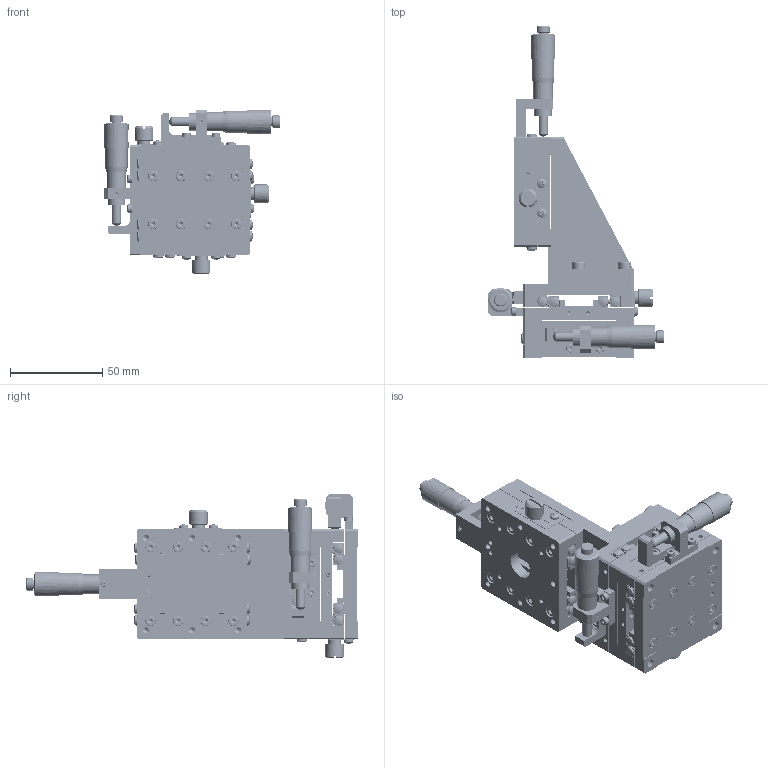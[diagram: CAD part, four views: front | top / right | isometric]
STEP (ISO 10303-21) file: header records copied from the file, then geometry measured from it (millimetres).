
FILE_DESCRIPTION (( 'STEP AP203' ), '1' );
FILE_NAME ('BVD60.STEP', '2024-07-23T12:55:12', ( 'Windows User' ), ( 'P R C' ), 'SwSTEP 2.0', 'SolidWorks 2024', '' );
FILE_SCHEMA (( 'CONFIG_CONTROL_DESIGN' ));
Products named in the file (1): BVD60
Bounding box: 95.2 x 180 x 89.4 mm (x, y, z)
Volume: 262175.6 mm3; surface area: 153919.9 mm2
Topology: 118 solids, 118 shells, 5760 faces, 14248 edges, 9132 vertices
Faces by surface type: plane 2675, bspline 1209, cylinder 1047, cone 754, torus 66, sphere 9
Full cylindrical faces by diameter (mm): 2 x66, 2.05 x36, 2.5 x57, 2.55 x48, 2.9 x2, 2.95 x27, 3 x59, 3.1 x6, 3.2 x5, 3.3 x32, 3.4 x48, 4 x8, 4.4 x48, 4.5 x28, 5 x15, 5.5 x52, 5.8 x4, 6 x48, 7 x14, 7.7 x4, 8 x12, 8.5 x3, 9.5 x6, 10 x3, 10.5 x3, 12.2 x3, 15 x3
Entity records: 257093 total; most frequent: CARTESIAN_POINT 138374, ORIENTED_EDGE 25316, DIRECTION 19732, EDGE_CURVE 12658, VERTEX_POINT 8744, EDGE_LOOP 8002, AXIS2_PLACEMENT_3D 7282, FACE_OUTER_BOUND 6421
